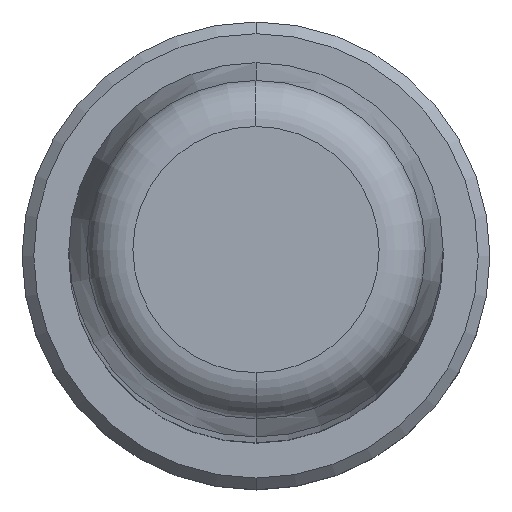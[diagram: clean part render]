
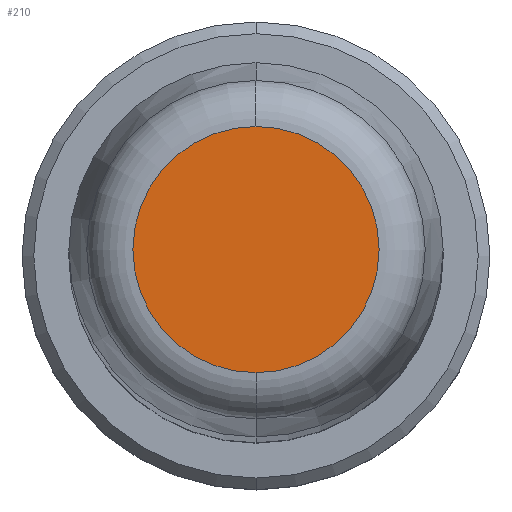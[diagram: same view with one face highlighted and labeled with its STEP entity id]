
A CAD part, top view. The second image highlights one B-rep face of the part: STEP entity #210.
In plain terms, the highlighted planar face has unit normal (0, 0, 1).
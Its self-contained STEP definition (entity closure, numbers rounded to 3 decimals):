
#1=CARTESIAN_POINT('',(0.,0.,160.));
#2=DIRECTION('',(0.,0.,-1.));
#3=DIRECTION('',(0.,-1.,0.));
#4=AXIS2_PLACEMENT_3D('',#1,#2,#3);
#6=CARTESIAN_POINT('',(0.,0.,160.));
#7=DIRECTION('',(0.,0.,-1.));
#8=DIRECTION('',(0.,1.,0.));
#9=AXIS2_PLACEMENT_3D('',#6,#7,#8);
#183=CARTESIAN_POINT('',(0.,-5.264,160.));
#184=CARTESIAN_POINT('',(0.,5.264,160.));
#185=VERTEX_POINT('',#183);
#186=VERTEX_POINT('',#184);
#199=CARTESIAN_POINT('',(0.,0.,160.));
#200=DIRECTION('',(0.,0.,1.));
#201=DIRECTION('',(0.,-1.,0.));
#202=AXIS2_PLACEMENT_3D('',#199,#200,#201);
#203=PLANE('',#202);
#205=ORIENTED_EDGE('',*,*,#204,.T.);
#207=ORIENTED_EDGE('',*,*,#206,.T.);
#208=EDGE_LOOP('',(#205,#207));
#209=FACE_OUTER_BOUND('',#208,.F.);
#210=ADVANCED_FACE('',(#209),#203,.T.);
#5=CIRCLE('',#4,5.264);
#10=CIRCLE('',#9,5.264);
#204=EDGE_CURVE('',#185,#186,#5,.T.);
#206=EDGE_CURVE('',#186,#185,#10,.T.);
